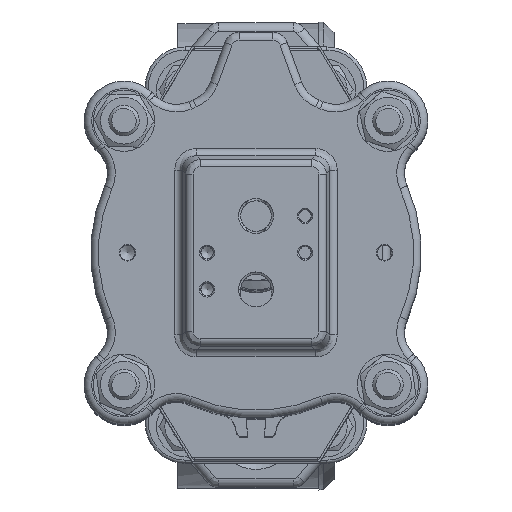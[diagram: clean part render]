
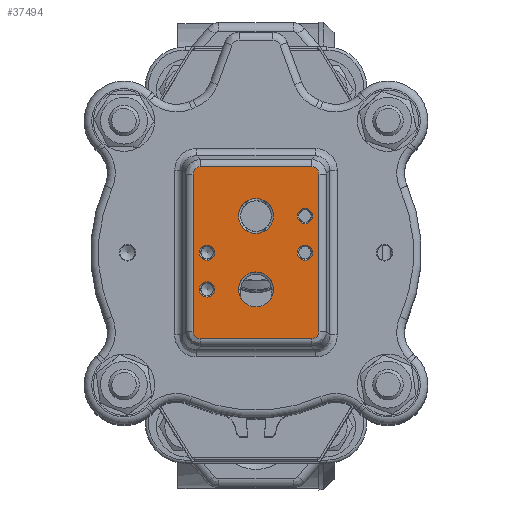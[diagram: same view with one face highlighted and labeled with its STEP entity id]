
A CAD part, top view. The second image highlights one B-rep face of the part: STEP entity #37494.
In plain terms, the highlighted planar face has unit normal (0, 0, 1).
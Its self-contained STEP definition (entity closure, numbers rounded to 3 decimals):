
#64=ELLIPSE('',#40509,2.673,2.5);
#65=ELLIPSE('',#40510,2.673,2.5);
#66=ELLIPSE('',#40511,2.673,2.5);
#67=ELLIPSE('',#40512,2.673,2.5);
#1371=PLANE('',#40508);
#2083=FACE_BOUND('',#6425,.T.);
#2084=FACE_BOUND('',#6426,.T.);
#2085=FACE_BOUND('',#6427,.T.);
#2086=FACE_BOUND('',#6428,.T.);
#2087=FACE_BOUND('',#6429,.T.);
#2088=FACE_BOUND('',#6430,.T.);
#3976=FACE_OUTER_BOUND('',#6424,.T.);
#6424=EDGE_LOOP('',(#27328,#27329,#27330,#27331,#27332,#27333,#27334,#27335));
#6425=EDGE_LOOP('',(#27336,#27337));
#6426=EDGE_LOOP('',(#27338,#27339));
#6427=EDGE_LOOP('',(#27340));
#6428=EDGE_LOOP('',(#27341));
#6429=EDGE_LOOP('',(#27342));
#6430=EDGE_LOOP('',(#27343));
#8822=LINE('',#62125,#10989);
#8823=LINE('',#62129,#10990);
#8824=LINE('',#62133,#10991);
#8825=LINE('',#62136,#10992);
#10989=VECTOR('',#46948,10.);
#10990=VECTOR('',#46951,10.);
#10991=VECTOR('',#46954,10.);
#10992=VECTOR('',#46957,10.);
#13361=CIRCLE('',#40378,5.723);
#13362=CIRCLE('',#40379,5.723);
#13364=CIRCLE('',#40382,5.723);
#13365=CIRCLE('',#40383,5.723);
#13456=CIRCLE('',#40507,2.5);
#13457=CIRCLE('',#40513,2.5);
#13458=CIRCLE('',#40514,2.5);
#13459=CIRCLE('',#40515,2.5);
#16214=VERTEX_POINT('',#61430);
#16215=VERTEX_POINT('',#61432);
#16216=VERTEX_POINT('',#61437);
#16217=VERTEX_POINT('',#61439);
#16318=VERTEX_POINT('',#62117);
#16319=VERTEX_POINT('',#62121);
#16320=VERTEX_POINT('',#62122);
#16321=VERTEX_POINT('',#62124);
#16322=VERTEX_POINT('',#62126);
#16323=VERTEX_POINT('',#62128);
#16324=VERTEX_POINT('',#62130);
#16325=VERTEX_POINT('',#62132);
#16326=VERTEX_POINT('',#62134);
#16327=VERTEX_POINT('',#62137);
#16328=VERTEX_POINT('',#62139);
#16329=VERTEX_POINT('',#62141);
#20222=EDGE_CURVE('',#16215,#16214,#13361,.T.);
#20223=EDGE_CURVE('',#16214,#16215,#13362,.T.);
#20226=EDGE_CURVE('',#16217,#16216,#13364,.T.);
#20227=EDGE_CURVE('',#16216,#16217,#13365,.T.);
#20363=EDGE_CURVE('',#16318,#16318,#13456,.T.);
#20364=EDGE_CURVE('',#16319,#16320,#64,.T.);
#20365=EDGE_CURVE('',#16321,#16319,#8822,.T.);
#20366=EDGE_CURVE('',#16322,#16321,#65,.T.);
#20367=EDGE_CURVE('',#16323,#16322,#8823,.T.);
#20368=EDGE_CURVE('',#16324,#16323,#66,.T.);
#20369=EDGE_CURVE('',#16325,#16324,#8824,.T.);
#20370=EDGE_CURVE('',#16326,#16325,#67,.T.);
#20371=EDGE_CURVE('',#16320,#16326,#8825,.T.);
#20372=EDGE_CURVE('',#16327,#16327,#13457,.T.);
#20373=EDGE_CURVE('',#16328,#16328,#13458,.T.);
#20374=EDGE_CURVE('',#16329,#16329,#13459,.T.);
#27328=ORIENTED_EDGE('',*,*,#20364,.F.);
#27329=ORIENTED_EDGE('',*,*,#20365,.F.);
#27330=ORIENTED_EDGE('',*,*,#20366,.F.);
#27331=ORIENTED_EDGE('',*,*,#20367,.F.);
#27332=ORIENTED_EDGE('',*,*,#20368,.F.);
#27333=ORIENTED_EDGE('',*,*,#20369,.F.);
#27334=ORIENTED_EDGE('',*,*,#20370,.F.);
#27335=ORIENTED_EDGE('',*,*,#20371,.F.);
#27336=ORIENTED_EDGE('',*,*,#20222,.T.);
#27337=ORIENTED_EDGE('',*,*,#20223,.T.);
#27338=ORIENTED_EDGE('',*,*,#20226,.T.);
#27339=ORIENTED_EDGE('',*,*,#20227,.T.);
#27340=ORIENTED_EDGE('',*,*,#20372,.F.);
#27341=ORIENTED_EDGE('',*,*,#20373,.F.);
#27342=ORIENTED_EDGE('',*,*,#20374,.F.);
#27343=ORIENTED_EDGE('',*,*,#20363,.F.);
#37494=ADVANCED_FACE('',(#3976,#2083,#2084,#2085,#2086,#2087,#2088),#1371,
 .F.);
#40378=AXIS2_PLACEMENT_3D('',#61433,#46656,#46657);
#40379=AXIS2_PLACEMENT_3D('',#61434,#46658,#46659);
#40382=AXIS2_PLACEMENT_3D('',#61440,#46665,#46666);
#40383=AXIS2_PLACEMENT_3D('',#61441,#46667,#46668);
#40507=AXIS2_PLACEMENT_3D('',#62119,#46942,#46943);
#40508=AXIS2_PLACEMENT_3D('',#62120,#46944,#46945);
#40509=AXIS2_PLACEMENT_3D('',#62123,#46946,#46947);
#40510=AXIS2_PLACEMENT_3D('',#62127,#46949,#46950);
#40511=AXIS2_PLACEMENT_3D('',#62131,#46952,#46953);
#40512=AXIS2_PLACEMENT_3D('',#62135,#46955,#46956);
#40513=AXIS2_PLACEMENT_3D('',#62138,#46958,#46959);
#40514=AXIS2_PLACEMENT_3D('',#62140,#46960,#46961);
#40515=AXIS2_PLACEMENT_3D('',#62142,#46962,#46963);
#46656=DIRECTION('center_axis',(0.,0.,
-1.));
#46657=DIRECTION('ref_axis',(0.,1.,0.));
#46658=DIRECTION('center_axis',(0.,0.,
-1.));
#46659=DIRECTION('ref_axis',(0.,1.,0.));
#46665=DIRECTION('center_axis',(0.,0.,
-1.));
#46666=DIRECTION('ref_axis',(0.,1.,0.));
#46667=DIRECTION('center_axis',(0.,0.,
-1.));
#46668=DIRECTION('ref_axis',(0.,1.,0.));
#46942=DIRECTION('center_axis',(0.,0.,
1.));
#46943=DIRECTION('ref_axis',(0.,-1.,0.));
#46944=DIRECTION('center_axis',(0.,0.,
-1.));
#46945=DIRECTION('ref_axis',(0.,-1.,0.));
#46946=DIRECTION('center_axis',(0.,0.,
-1.));
#46947=DIRECTION('ref_axis',(0.707,-0.707,0.));
#46948=DIRECTION('',(0.,-1.,0.));
#46949=DIRECTION('center_axis',(0.,0.,
-1.));
#46950=DIRECTION('ref_axis',(0.707,0.707,0.));
#46951=DIRECTION('',(1.,0.,0.));
#46952=DIRECTION('center_axis',(0.,0.,
-1.));
#46953=DIRECTION('ref_axis',(-0.707,0.707,0.));
#46954=DIRECTION('',(0.,1.,0.));
#46955=DIRECTION('center_axis',(0.,0.,
-1.));
#46956=DIRECTION('ref_axis',(-0.707,-0.707,0.));
#46957=DIRECTION('',(-1.,0.,0.));
#46958=DIRECTION('center_axis',(0.,0.,
1.));
#46959=DIRECTION('ref_axis',(0.,-1.,0.));
#46960=DIRECTION('center_axis',(0.,0.,
1.));
#46961=DIRECTION('ref_axis',(0.,-1.,0.));
#46962=DIRECTION('center_axis',(0.,0.,
1.));
#46963=DIRECTION('ref_axis',(0.,-1.,0.));
#61430=CARTESIAN_POINT('',(-132.674,-62.128,669.457));
#61432=CARTESIAN_POINT('',(-132.674,-50.683,669.457));
#61433=CARTESIAN_POINT('Origin',(-132.674,-56.406,669.457));
#61434=CARTESIAN_POINT('Origin',(-132.674,-56.406,669.457));
#61437=CARTESIAN_POINT('',(-132.674,-38.128,669.457));
#61439=CARTESIAN_POINT('',(-132.674,-26.683,669.457));
#61440=CARTESIAN_POINT('Origin',(-132.674,-32.406,669.457));
#61441=CARTESIAN_POINT('Origin',(-132.674,-32.406,669.457));
#62117=CARTESIAN_POINT('',(-148.674,-53.906,669.457));
#62119=CARTESIAN_POINT('Origin',(-148.674,-56.406,669.457));
#62120=CARTESIAN_POINT('Origin',(-132.674,-44.406,669.457));
#62121=CARTESIAN_POINT('',(-112.092,-70.073,669.457));
#62122=CARTESIAN_POINT('',(-114.507,-72.487,669.457));
#62123=CARTESIAN_POINT('Origin',(-114.681,-69.899,669.457));
#62124=CARTESIAN_POINT('',(-112.092,-18.739,669.457));
#62125=CARTESIAN_POINT('',(-112.092,-59.406,669.457));
#62126=CARTESIAN_POINT('',(-114.507,-16.324,669.457));
#62127=CARTESIAN_POINT('Origin',(-114.681,-18.912,669.457));
#62128=CARTESIAN_POINT('',(-150.841,-16.324,669.457));
#62129=CARTESIAN_POINT('',(-121.424,-16.324,669.457));
#62130=CARTESIAN_POINT('',(-153.256,-18.739,669.457));
#62131=CARTESIAN_POINT('Origin',(-150.668,-18.912,669.457));
#62132=CARTESIAN_POINT('',(-153.256,-70.073,669.457));
#62133=CARTESIAN_POINT('',(-153.256,-29.406,669.457));
#62134=CARTESIAN_POINT('',(-150.841,-72.487,669.457));
#62135=CARTESIAN_POINT('Origin',(-150.668,-69.899,669.457));
#62136=CARTESIAN_POINT('',(-143.924,-72.487,669.457));
#62137=CARTESIAN_POINT('',(-148.674,-41.906,669.457));
#62138=CARTESIAN_POINT('Origin',(-148.674,-44.406,669.457));
#62139=CARTESIAN_POINT('',(-116.674,-29.906,669.457));
#62140=CARTESIAN_POINT('Origin',(-116.674,-32.406,669.457));
#62141=CARTESIAN_POINT('',(-116.674,-41.906,669.457));
#62142=CARTESIAN_POINT('Origin',(-116.674,-44.406,669.457));
